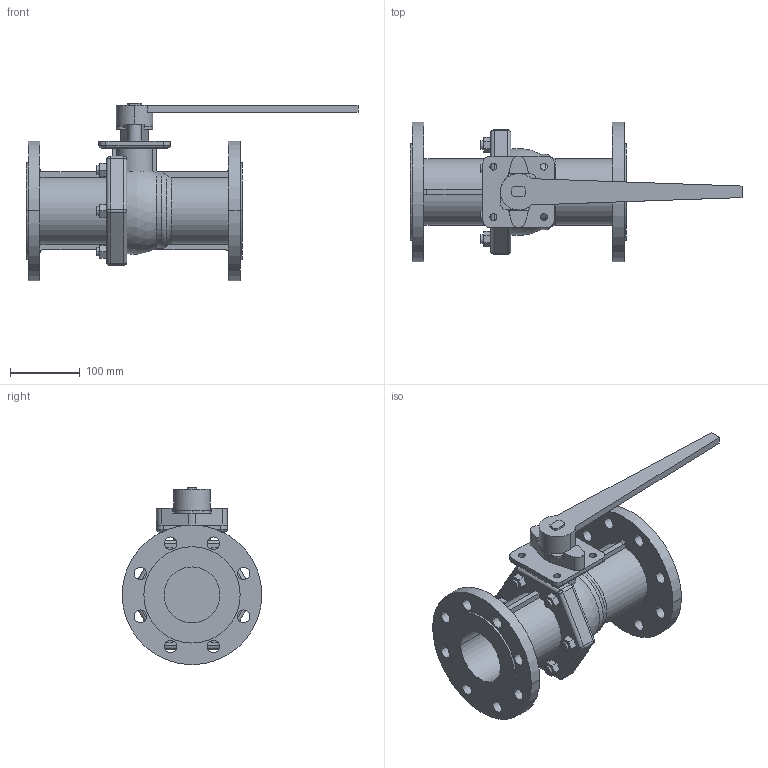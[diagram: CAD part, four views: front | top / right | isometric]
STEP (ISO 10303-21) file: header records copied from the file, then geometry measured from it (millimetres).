
FILE_DESCRIPTION( (''), '2;1');
FILE_NAME ('PC2091.16192.BLV-2SF EN PN16 80A_7204.stp','2026-05-28T09:13:33',(''),(''),'spGate 21.9.4 (****-****-****-****)','','');
FILE_SCHEMA (('AUTOMOTIVE_DESIGN'));
Length unit declared in the file: millimetre
Products named in the file (2): Assembly; BLV-2SFEN 80A
Assembly tree (1 placements, depth 2):
  Assembly
    BLV-2SFEN 80A
Bounding box: 475.5 x 200 x 254 mm (x, y, z)
Volume: 2644224.8 mm3; surface area: 395155.7 mm2
Topology: 1 solids, 1 shells, 258 faces, 675 edges, 424 vertices
Faces by surface type: cylinder 120, plane 115, sphere 15, bspline 8
Entity records: 13514 total; most frequent: CARTESIAN_POINT 1741, DIRECTION 1367, ORIENTED_EDGE 1326, COLOUR_RGB 922, PRESENTATION_STYLE_ASSIGNMENT 922, STYLED_ITEM 922, EDGE_CURVE 663, DRAUGHTING_PRE_DEFINED_CURVE_FONT 663
